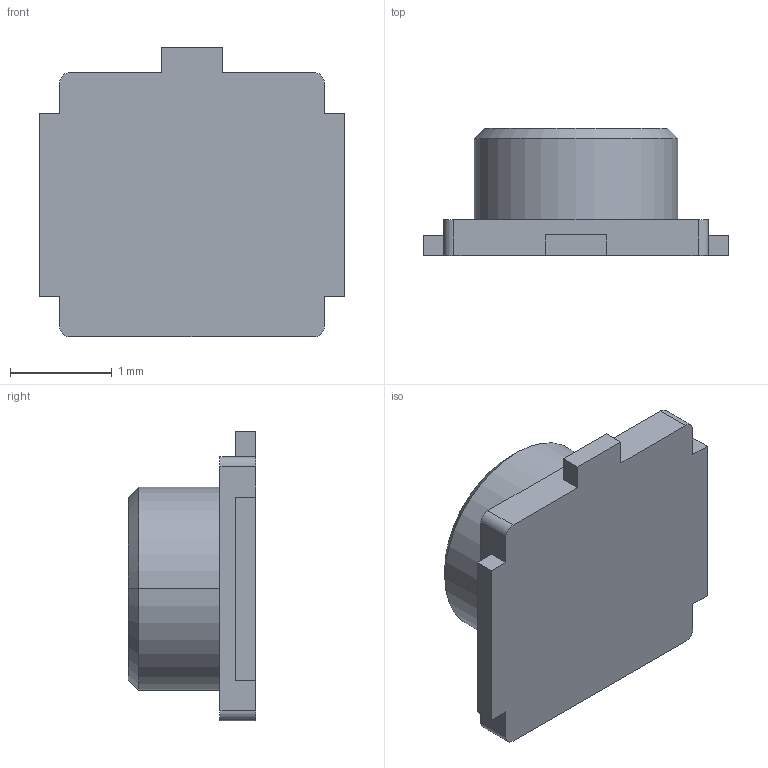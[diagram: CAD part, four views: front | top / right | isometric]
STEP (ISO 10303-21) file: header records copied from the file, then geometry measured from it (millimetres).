
FILE_DESCRIPTION((''),'2;1');
FILE_NAME('GPS-ANT-CONN_PRT','2008-06-30T',('GRA'),(''),'PRO/ENGINEER BY PARAMETRIC TECHNOLOGY CORPORATION, 2006170','PRO/ENGINEER BY PARAMETRIC TECHNOLOGY CORPORATION, 2006170','');
FILE_SCHEMA(('CONFIG_CONTROL_DESIGN'));
Length unit declared in the file: millimetre
Products named in the file (1): GPS-ANT-CONN_PRT
Bounding box: 3 x 1.25 x 2.85 mm (x, y, z)
Volume: 5.3 mm3; surface area: 24.4 mm2
Topology: 1 solids, 1 shells, 27 faces, 70 edges, 46 vertices
Faces by surface type: plane 19, cylinder 6, cone 2
Entity records: 860 total; most frequent: CARTESIAN_POINT 143, ORIENTED_EDGE 140, DIRECTION 138, EDGE_CURVE 70, VECTOR 56, LINE 56, VERTEX_POINT 46, AXIS2_PLACEMENT_3D 41
